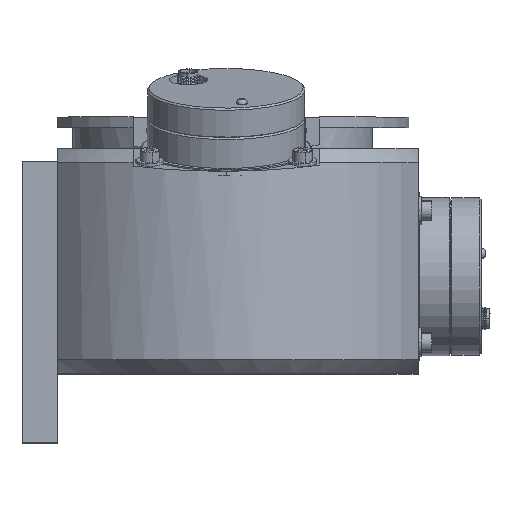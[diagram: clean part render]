
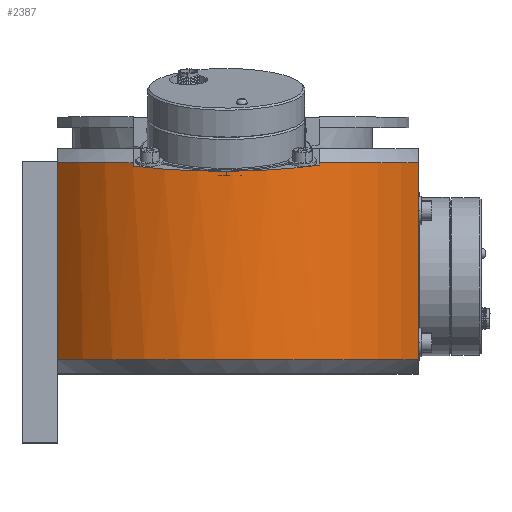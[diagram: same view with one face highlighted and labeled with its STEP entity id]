
A CAD part, top view. The second image highlights one B-rep face of the part: STEP entity #2387.
In plain terms, the highlighted cylindrical face has radius 61 mm (diameter 122 mm), a partial arc.
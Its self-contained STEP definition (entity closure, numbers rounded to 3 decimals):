
#107 = EDGE_CURVE ( 'NONE', #3799, #3797, #5392, .T. ) ;
#123 = EDGE_CURVE ( 'NONE', #3788, #3801, #5447, .T. ) ;
#130 = EDGE_CURVE ( 'NONE', #3790, #3795, #5472, .T. ) ;
#132 = EDGE_CURVE ( 'NONE', #3799, #3801, #5266, .T. ) ;
#137 = EDGE_CURVE ( 'NONE', #3793, #3804, #5492, .T. ) ;
#157 = EDGE_CURVE ( 'NONE', #3797, #3790, #5775, .T. ) ;
#170 = EDGE_CURVE ( 'NONE', #3795, #3804, #15816, .T. ) ;
#189 = EDGE_CURVE ( 'NONE', #3793, #3788, #3130, .T. ) ;
#430 = VECTOR ( 'NONE', #5496, 1000. ) ;
#1849 = ORIENTED_EDGE ( 'NONE', *, *, #130, .F. ) ;
#1850 = ORIENTED_EDGE ( 'NONE', *, *, #157, .F. ) ;
#1851 = ORIENTED_EDGE ( 'NONE', *, *, #107, .F. ) ;
#1852 = ORIENTED_EDGE ( 'NONE', *, *, #132, .T. ) ;
#1853 = ORIENTED_EDGE ( 'NONE', *, *, #123, .F. ) ;
#1854 = ORIENTED_EDGE ( 'NONE', *, *, #189, .F. ) ;
#1855 = ORIENTED_EDGE ( 'NONE', *, *, #137, .T. ) ;
#1856 = ORIENTED_EDGE ( 'NONE', *, *, #170, .F. ) ;
#2387 = ADVANCED_FACE ( 'NONE', ( #8435 ), #8434, .T. ) ;
#2834 = EDGE_LOOP ( 'NONE', ( #1849, #1850, #1851, #1852, #1853, #1854, #1855, #1856 ) ) ;
#3127 = AXIS2_PLACEMENT_3D ( 'NONE', #5712, #5713, #5714 ) ;
#3130 = CIRCLE ( 'NONE', #3127, 61. ) ;
#3788 = VERTEX_POINT ( 'NONE', #12316 ) ;
#3790 = VERTEX_POINT ( 'NONE', #12318 ) ;
#3793 = VERTEX_POINT ( 'NONE', #12321 ) ;
#3795 = VERTEX_POINT ( 'NONE', #12323 ) ;
#3797 = VERTEX_POINT ( 'NONE', #12325 ) ;
#3799 = VERTEX_POINT ( 'NONE', #12327 ) ;
#3801 = VERTEX_POINT ( 'NONE', #12329 ) ;
#3804 = VERTEX_POINT ( 'NONE', #12332 ) ;
#5214 = VECTOR ( 'NONE', #5396, 1000. ) ;
#5244 = VECTOR ( 'NONE', #5451, 1000. ) ;
#5265 = AXIS2_PLACEMENT_3D ( 'NONE', #5481, #5482, #5483 ) ;
#5266 = CIRCLE ( 'NONE', #5265, 61. ) ;
#5269 = VECTOR ( 'NONE', #5474, 1000. ) ;
#5388 = CARTESIAN_POINT ( 'NONE',  ( -47., 73., 38.884 ) ) ;
#5392 = LINE ( 'NONE', #5388, #5214 ) ;
#5396 = DIRECTION ( 'NONE',  ( 0., 1., 0. ) ) ;
#5441 = CARTESIAN_POINT ( 'NONE',  ( 55.7, 73., 24.87 ) ) ;
#5447 = LINE ( 'NONE', #5441, #5244 ) ;
#5451 = DIRECTION ( 'NONE',  ( 0., -1., 0. ) ) ;
#5472 = LINE ( 'NONE', #5473, #5269 ) ;
#5473 = CARTESIAN_POINT ( 'NONE',  ( -25.44, 73., 55.442 ) ) ;
#5474 = DIRECTION ( 'NONE',  ( 0., -1., 0. ) ) ;
#5481 = CARTESIAN_POINT ( 'NONE',  ( 0., 4., 0. ) ) ;
#5482 = DIRECTION ( 'NONE',  ( 0., 1., 0. ) ) ;
#5483 = DIRECTION ( 'NONE',  ( -1., 0., 0. ) ) ;
#5490 = CARTESIAN_POINT ( 'NONE',  ( 27.56, 73., 54.419 ) ) ;
#5492 = LINE ( 'NONE', #5490, #430 ) ;
#5496 = DIRECTION ( 'NONE',  ( 0., -1., 0. ) ) ;
#5582 = CARTESIAN_POINT ( 'NONE',  ( 0., 60., 0. ) ) ;
#5583 = DIRECTION ( 'NONE',  ( 0., 1., 0. ) ) ;
#5584 = DIRECTION ( 'NONE',  ( -1., 0., 0. ) ) ;
#5635 = CARTESIAN_POINT ( 'NONE',  ( -25.44, 58.999, 55.442 ) ) ;
#5644 = CARTESIAN_POINT ( 'NONE',  ( -8.241, 56.885, 63.334 ) ) ;
#5652 = CARTESIAN_POINT ( 'NONE',  ( 10.678, 56.982, 62.969 ) ) ;
#5653 = CARTESIAN_POINT ( 'NONE',  ( 27.56, 59.273, 54.419 ) ) ;
#5712 = CARTESIAN_POINT ( 'NONE',  ( 0., 60., 0. ) ) ;
#5713 = DIRECTION ( 'NONE',  ( 0., 1., 0. ) ) ;
#5714 = DIRECTION ( 'NONE',  ( -1., 0., 0. ) ) ;
#5772 = AXIS2_PLACEMENT_3D ( 'NONE', #5582, #5583, #5584 ) ;
#5775 = CIRCLE ( 'NONE', #5772, 61. ) ;
#8429 = CARTESIAN_POINT ( 'NONE',  ( 0., 73., 0. ) ) ;
#8432 = DIRECTION ( 'NONE',  ( 0., 1., 0. ) ) ;
#8434 = CYLINDRICAL_SURFACE ( 'NONE', #8607, 61. ) ;
#8435 = FACE_OUTER_BOUND ( 'NONE', #2834, .T. ) ;
#8437 = DIRECTION ( 'NONE',  ( -1., 0., 0. ) ) ;
#8607 = AXIS2_PLACEMENT_3D ( 'NONE', #8429, #8432, #8437 ) ;
#12316 = CARTESIAN_POINT ( 'NONE',  ( 55.7, 60., 24.87 ) ) ;
#12318 = CARTESIAN_POINT ( 'NONE',  ( -25.44, 60., 55.442 ) ) ;
#12321 = CARTESIAN_POINT ( 'NONE',  ( 27.56, 60., 54.419 ) ) ;
#12323 = CARTESIAN_POINT ( 'NONE',  ( -25.44, 58.999, 55.442 ) ) ;
#12325 = CARTESIAN_POINT ( 'NONE',  ( -47., 60., 38.884 ) ) ;
#12327 = CARTESIAN_POINT ( 'NONE',  ( -47., 4., 38.884 ) ) ;
#12329 = CARTESIAN_POINT ( 'NONE',  ( 55.7, 4., 24.87 ) ) ;
#12332 = CARTESIAN_POINT ( 'NONE',  ( 27.56, 59.273, 54.419 ) ) ;
#15816 =( BOUNDED_CURVE ( )  B_SPLINE_CURVE ( 3, ( #5635, #5644, #5652, #5653 ),
 .UNSPECIFIED., .F., .T. ) 
 B_SPLINE_CURVE_WITH_KNOTS ( ( 4, 4 ),
 ( 2.711, 3.61 ),
 .UNSPECIFIED. ) 
 CURVE ( )  GEOMETRIC_REPRESENTATION_ITEM ( )  RATIONAL_B_SPLINE_CURVE ( ( 1., 0.934, 0.934, 1. ) ) 
 REPRESENTATION_ITEM ( '' )  );
